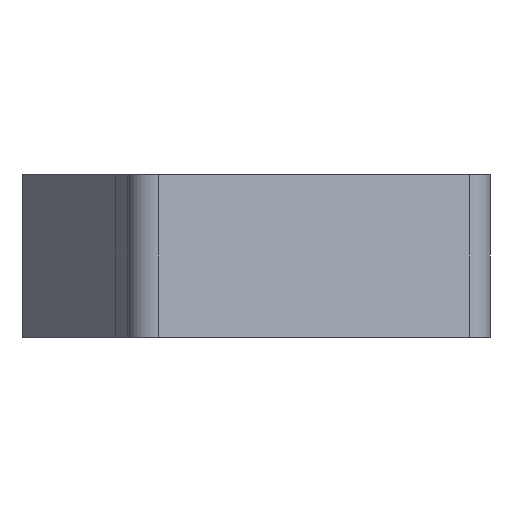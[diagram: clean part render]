
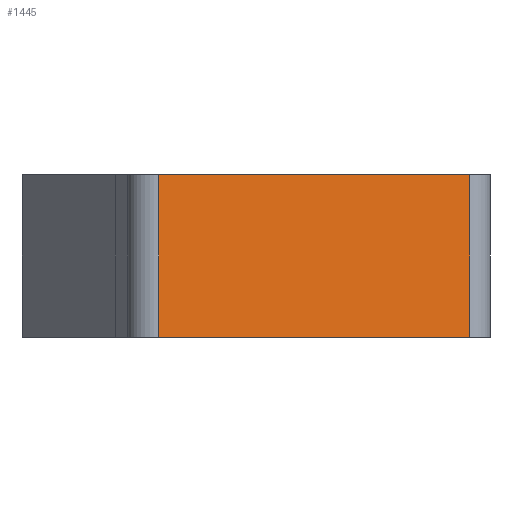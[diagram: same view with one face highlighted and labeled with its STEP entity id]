
A CAD part, left-side view. The second image highlights one B-rep face of the part: STEP entity #1445.
In plain terms, the highlighted planar face has unit normal (-0.978, -0.208, 0).
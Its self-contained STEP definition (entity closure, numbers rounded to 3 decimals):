
#44 = PLANE('',#45);
#45 = AXIS2_PLACEMENT_3D('',#46,#47,#48);
#46 = CARTESIAN_POINT('',(26.967,12.751,44.45));
#47 = DIRECTION('',(0.,0.,1.));
#48 = DIRECTION('',(-0.208,0.978,0.));
#100 = PLANE('',#101);
#101 = AXIS2_PLACEMENT_3D('',#102,#103,#104);
#102 = CARTESIAN_POINT('',(26.967,12.751,40.05));
#103 = DIRECTION('',(0.,0.,1.));
#104 = DIRECTION('',(-0.208,0.978,0.));
#126 = CYLINDRICAL_SURFACE('',#127,0.7);
#127 = AXIS2_PLACEMENT_3D('',#128,#129,#130);
#128 = CARTESIAN_POINT('',(24.572,12.957,40.05));
#129 = DIRECTION('',(0.,0.,1.));
#130 = DIRECTION('',(0.208,-0.978,0.));
#492 = VERTEX_POINT('',#493);
#493 = CARTESIAN_POINT('',(22.099,21.224,44.45));
#508 = CYLINDRICAL_SURFACE('',#509,0.7);
#509 = AXIS2_PLACEMENT_3D('',#510,#511,#512);
#510 = CARTESIAN_POINT('',(22.784,21.369,40.05));
#511 = DIRECTION('',(0.,0.,1.));
#512 = DIRECTION('',(-0.208,0.978,0.));
#520 = EDGE_CURVE('',#521,#492,#523,.T.);
#521 = VERTEX_POINT('',#522);
#522 = CARTESIAN_POINT('',(23.887,12.812,44.45));
#523 = SURFACE_CURVE('',#524,(#528,#535),.PCURVE_S1.);
#524 = LINE('',#525,#526);
#525 = CARTESIAN_POINT('',(24.033,12.127,44.45));
#526 = VECTOR('',#527,1.);
#527 = DIRECTION('',(-0.208,0.978,0.));
#528 = PCURVE('',#44,#529);
#529 = DEFINITIONAL_REPRESENTATION('',(#530),#534);
#530 = LINE('',#531,#532);
#531 = CARTESIAN_POINT('',(0.,3.));
#532 = VECTOR('',#533,1.);
#533 = DIRECTION('',(1.,0.));
#534 = ( GEOMETRIC_REPRESENTATION_CONTEXT(2) 
PARAMETRIC_REPRESENTATION_CONTEXT() REPRESENTATION_CONTEXT('2D SPACE',''
  ) );
#535 = PCURVE('',#536,#541);
#536 = PLANE('',#537);
#537 = AXIS2_PLACEMENT_3D('',#538,#539,#540);
#538 = CARTESIAN_POINT('',(24.033,12.127,40.05));
#539 = DIRECTION('',(-0.978,-0.208,0.));
#540 = DIRECTION('',(0.,0.,1.));
#541 = DEFINITIONAL_REPRESENTATION('',(#542),#546);
#542 = LINE('',#543,#544);
#543 = CARTESIAN_POINT('',(4.4,0.));
#544 = VECTOR('',#545,1.);
#545 = DIRECTION('',(0.,1.));
#546 = ( GEOMETRIC_REPRESENTATION_CONTEXT(2) 
PARAMETRIC_REPRESENTATION_CONTEXT() REPRESENTATION_CONTEXT('2D SPACE',''
  ) );
#858 = VERTEX_POINT('',#859);
#859 = CARTESIAN_POINT('',(23.887,12.812,40.05));
#885 = EDGE_CURVE('',#858,#521,#886,.T.);
#886 = SURFACE_CURVE('',#887,(#891,#898),.PCURVE_S1.);
#887 = LINE('',#888,#889);
#888 = CARTESIAN_POINT('',(23.887,12.812,40.05));
#889 = VECTOR('',#890,1.);
#890 = DIRECTION('',(0.,0.,1.));
#891 = PCURVE('',#126,#892);
#892 = DEFINITIONAL_REPRESENTATION('',(#893),#897);
#893 = LINE('',#894,#895);
#894 = CARTESIAN_POINT('',(-1.571,0.));
#895 = VECTOR('',#896,1.);
#896 = DIRECTION('',(-0.,1.));
#897 = ( GEOMETRIC_REPRESENTATION_CONTEXT(2) 
PARAMETRIC_REPRESENTATION_CONTEXT() REPRESENTATION_CONTEXT('2D SPACE',''
  ) );
#898 = PCURVE('',#536,#899);
#899 = DEFINITIONAL_REPRESENTATION('',(#900),#904);
#900 = LINE('',#901,#902);
#901 = CARTESIAN_POINT('',(0.,0.7));
#902 = VECTOR('',#903,1.);
#903 = DIRECTION('',(1.,0.));
#904 = ( GEOMETRIC_REPRESENTATION_CONTEXT(2) 
PARAMETRIC_REPRESENTATION_CONTEXT() REPRESENTATION_CONTEXT('2D SPACE',''
  ) );
#1184 = VERTEX_POINT('',#1185);
#1185 = CARTESIAN_POINT('',(22.099,21.224,40.05));
#1207 = EDGE_CURVE('',#858,#1184,#1208,.T.);
#1208 = SURFACE_CURVE('',#1209,(#1213,#1220),.PCURVE_S1.);
#1209 = LINE('',#1210,#1211);
#1210 = CARTESIAN_POINT('',(24.033,12.127,40.05));
#1211 = VECTOR('',#1212,1.);
#1212 = DIRECTION('',(-0.208,0.978,0.));
#1213 = PCURVE('',#100,#1214);
#1214 = DEFINITIONAL_REPRESENTATION('',(#1215),#1219);
#1215 = LINE('',#1216,#1217);
#1216 = CARTESIAN_POINT('',(0.,3.));
#1217 = VECTOR('',#1218,1.);
#1218 = DIRECTION('',(1.,0.));
#1219 = ( GEOMETRIC_REPRESENTATION_CONTEXT(2) 
PARAMETRIC_REPRESENTATION_CONTEXT() REPRESENTATION_CONTEXT('2D SPACE',''
  ) );
#1220 = PCURVE('',#536,#1221);
#1221 = DEFINITIONAL_REPRESENTATION('',(#1222),#1226);
#1222 = LINE('',#1223,#1224);
#1223 = CARTESIAN_POINT('',(0.,0.));
#1224 = VECTOR('',#1225,1.);
#1225 = DIRECTION('',(0.,1.));
#1226 = ( GEOMETRIC_REPRESENTATION_CONTEXT(2) 
PARAMETRIC_REPRESENTATION_CONTEXT() REPRESENTATION_CONTEXT('2D SPACE',''
  ) );
#1445 = ADVANCED_FACE('',(#1446),#536,.T.);
#1446 = FACE_BOUND('',#1447,.T.);
#1447 = EDGE_LOOP('',(#1448,#1449,#1450,#1451));
#1448 = ORIENTED_EDGE('',*,*,#1207,.F.);
#1449 = ORIENTED_EDGE('',*,*,#885,.T.);
#1450 = ORIENTED_EDGE('',*,*,#520,.T.);
#1451 = ORIENTED_EDGE('',*,*,#1452,.F.);
#1452 = EDGE_CURVE('',#1184,#492,#1453,.T.);
#1453 = SURFACE_CURVE('',#1454,(#1458,#1465),.PCURVE_S1.);
#1454 = LINE('',#1455,#1456);
#1455 = CARTESIAN_POINT('',(22.099,21.224,40.05));
#1456 = VECTOR('',#1457,1.);
#1457 = DIRECTION('',(0.,0.,1.));
#1458 = PCURVE('',#536,#1459);
#1459 = DEFINITIONAL_REPRESENTATION('',(#1460),#1464);
#1460 = LINE('',#1461,#1462);
#1461 = CARTESIAN_POINT('',(0.,9.3));
#1462 = VECTOR('',#1463,1.);
#1463 = DIRECTION('',(1.,0.));
#1464 = ( GEOMETRIC_REPRESENTATION_CONTEXT(2) 
PARAMETRIC_REPRESENTATION_CONTEXT() REPRESENTATION_CONTEXT('2D SPACE',''
  ) );
#1465 = PCURVE('',#508,#1466);
#1466 = DEFINITIONAL_REPRESENTATION('',(#1467),#1471);
#1467 = LINE('',#1468,#1469);
#1468 = CARTESIAN_POINT('',(1.571,0.));
#1469 = VECTOR('',#1470,1.);
#1470 = DIRECTION('',(0.,1.));
#1471 = ( GEOMETRIC_REPRESENTATION_CONTEXT(2) 
PARAMETRIC_REPRESENTATION_CONTEXT() REPRESENTATION_CONTEXT('2D SPACE',''
  ) );
